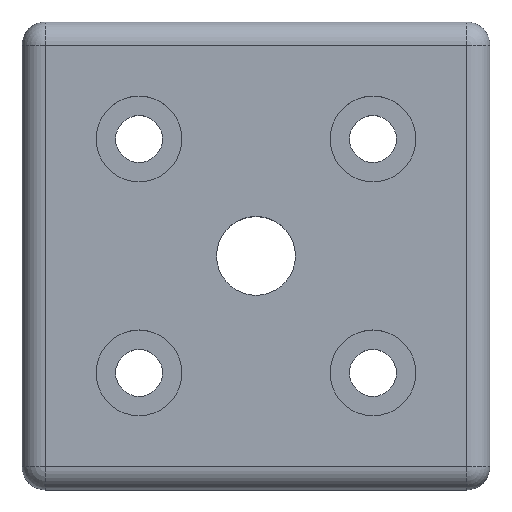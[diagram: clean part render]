
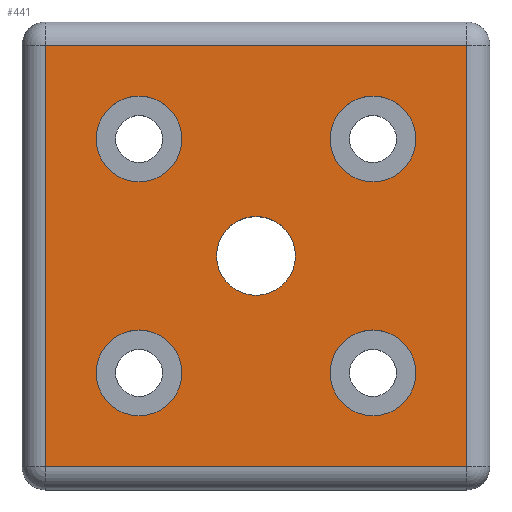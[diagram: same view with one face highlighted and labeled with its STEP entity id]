
A CAD part, top view. The second image highlights one B-rep face of the part: STEP entity #441.
In plain terms, the highlighted planar face has unit normal (0, 0, 1).
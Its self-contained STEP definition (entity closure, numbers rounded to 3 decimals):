
#32=CIRCLE('',#494,5.5);
#33=CIRCLE('',#495,5.5);
#34=CIRCLE('',#496,5.5);
#35=CIRCLE('',#497,5.5);
#36=CIRCLE('',#498,5.053);
#107=ORIENTED_EDGE('',*,*,#207,.T.);
#108=ORIENTED_EDGE('',*,*,#208,.T.);
#109=ORIENTED_EDGE('',*,*,#209,.T.);
#110=ORIENTED_EDGE('',*,*,#210,.T.);
#111=ORIENTED_EDGE('',*,*,#211,.T.);
#112=ORIENTED_EDGE('',*,*,#212,.T.);
#113=ORIENTED_EDGE('',*,*,#213,.T.);
#114=ORIENTED_EDGE('',*,*,#214,.T.);
#115=ORIENTED_EDGE('',*,*,#215,.T.);
#207=EDGE_CURVE('',#253,#253,#32,.T.);
#208=EDGE_CURVE('',#254,#254,#33,.T.);
#209=EDGE_CURVE('',#255,#255,#34,.T.);
#210=EDGE_CURVE('',#256,#256,#35,.T.);
#211=EDGE_CURVE('',#257,#257,#36,.T.);
#212=EDGE_CURVE('',#258,#259,#291,.T.);
#213=EDGE_CURVE('',#259,#260,#292,.T.);
#214=EDGE_CURVE('',#260,#261,#293,.T.);
#215=EDGE_CURVE('',#261,#258,#294,.T.);
#253=VERTEX_POINT('',#745);
#254=VERTEX_POINT('',#747);
#255=VERTEX_POINT('',#749);
#256=VERTEX_POINT('',#751);
#257=VERTEX_POINT('',#753);
#258=VERTEX_POINT('',#755);
#259=VERTEX_POINT('',#756);
#260=VERTEX_POINT('',#758);
#261=VERTEX_POINT('',#760);
#291=LINE('',#754,#311);
#292=LINE('',#757,#312);
#293=LINE('',#759,#313);
#294=LINE('',#761,#314);
#311=VECTOR('',#604,1000.);
#312=VECTOR('',#605,1000.);
#313=VECTOR('',#606,1000.);
#314=VECTOR('',#607,1000.);
#323=EDGE_LOOP('',(#107));
#324=EDGE_LOOP('',(#108));
#325=EDGE_LOOP('',(#109));
#326=EDGE_LOOP('',(#110));
#327=EDGE_LOOP('',(#111));
#328=EDGE_LOOP('',(#112,#113,#114,#115));
#377=FACE_BOUND('',#323,.T.);
#378=FACE_BOUND('',#324,.T.);
#379=FACE_BOUND('',#325,.T.);
#380=FACE_BOUND('',#326,.T.);
#381=FACE_BOUND('',#327,.T.);
#382=FACE_BOUND('',#328,.T.);
#427=PLANE('',#493);
#441=ADVANCED_FACE('',(#377,#378,#379,#380,#381,#382),#427,.T.);
#493=AXIS2_PLACEMENT_3D('',#743,#592,#593);
#494=AXIS2_PLACEMENT_3D('',#744,#594,#595);
#495=AXIS2_PLACEMENT_3D('',#746,#596,#597);
#496=AXIS2_PLACEMENT_3D('',#748,#598,#599);
#497=AXIS2_PLACEMENT_3D('',#750,#600,#601);
#498=AXIS2_PLACEMENT_3D('',#752,#602,#603);
#592=DIRECTION('',(0.,0.,1.));
#593=DIRECTION('',(1.,0.,0.));
#594=DIRECTION('',(0.,0.,-1.));
#595=DIRECTION('',(-1.,0.,0.));
#596=DIRECTION('',(0.,0.,-1.));
#597=DIRECTION('',(-1.,0.,0.));
#598=DIRECTION('',(0.,0.,-1.));
#599=DIRECTION('',(-1.,0.,0.));
#600=DIRECTION('',(0.,0.,-1.));
#601=DIRECTION('',(-1.,0.,0.));
#602=DIRECTION('',(0.,0.,-1.));
#603=DIRECTION('',(-1.,0.,0.));
#604=DIRECTION('',(0.,1.,0.));
#605=DIRECTION('',(-1.,0.,0.));
#606=DIRECTION('',(0.,-1.,0.));
#607=DIRECTION('',(1.,0.,0.));
#743=CARTESIAN_POINT('',(-27.,-27.,12.));
#744=CARTESIAN_POINT('',(-15.,15.,12.));
#745=CARTESIAN_POINT('',(-20.5,15.,12.));
#746=CARTESIAN_POINT('',(15.,-15.,12.));
#747=CARTESIAN_POINT('',(9.5,-15.,12.));
#748=CARTESIAN_POINT('',(-15.,-15.,12.));
#749=CARTESIAN_POINT('',(-20.5,-15.,12.));
#750=CARTESIAN_POINT('',(15.,15.,12.));
#751=CARTESIAN_POINT('',(9.5,15.,12.));
#752=CARTESIAN_POINT('',(0.,0.,12.));
#753=CARTESIAN_POINT('',(-5.053,0.,12.));
#754=CARTESIAN_POINT('',(27.,27.,12.));
#755=CARTESIAN_POINT('',(27.,-27.,12.));
#756=CARTESIAN_POINT('',(27.,27.,12.));
#757=CARTESIAN_POINT('',(-27.,27.,12.));
#758=CARTESIAN_POINT('',(-27.,27.,12.));
#759=CARTESIAN_POINT('',(-27.,-27.,12.));
#760=CARTESIAN_POINT('',(-27.,-27.,12.));
#761=CARTESIAN_POINT('',(27.,-27.,12.));
